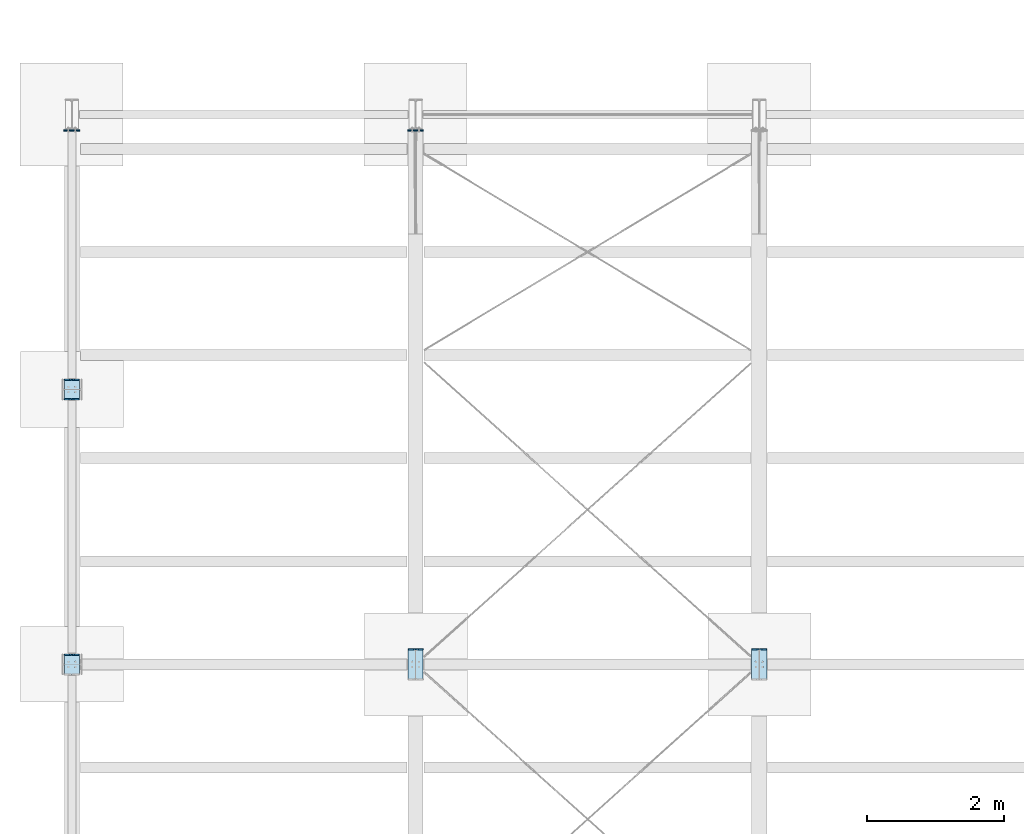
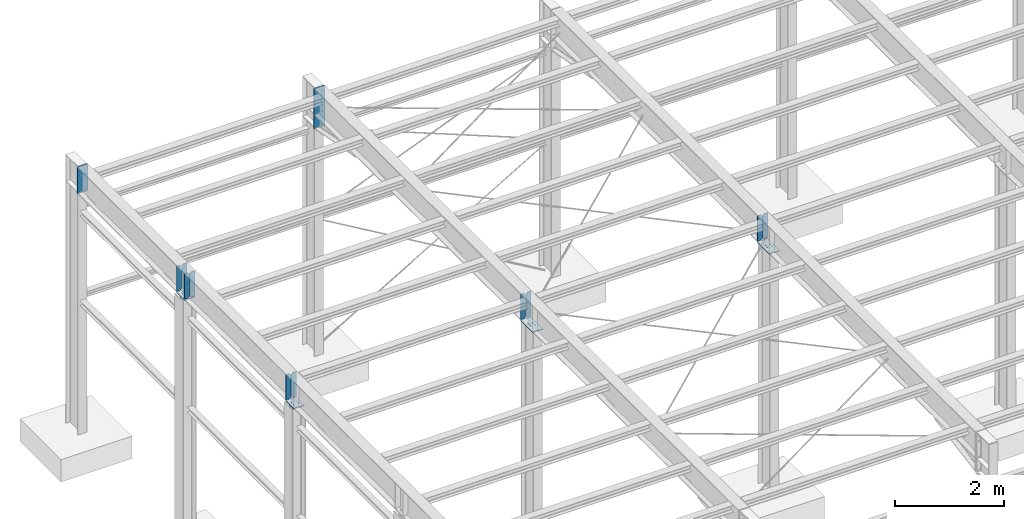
# Not in any storey, part 8 of 50: 16 plates, 50 openings.
"""IFC4 model written with IfcOpenShell, lengths in metres."""

from ifc_helpers import new_model, entity, si_unit, converted_unit, derived_unit, direction, frame, frame_2d, origin, origin_with_axes, origin_2d_with_axis, place, context, project, spatial, polyline, circle, outline, extrude, material, layer, layer_set, element, save


model = new_model("IFC4")

# Units and contexts
model_context = context("Model", 3, precision=1e-05, world=origin(), true_north=direction((6.123233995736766e-17, 1.0)))
ifc_project = project(units=[si_unit("LENGTHUNIT", "METRE"), si_unit("AREAUNIT", "SQUARE_METRE"), converted_unit("PLANEANGLEUNIT", "DEGREE", entity("IfcPlaneAngleMeasure", 0.017453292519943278), si_unit("PLANEANGLEUNIT", "RADIAN"), dimensions=[0, 0, 0, 0, 0, 0, 0]), si_unit("VOLUMEUNIT", "CUBIC_METRE"), derived_unit("THERMALTRANSMITTANCEUNIT", [(si_unit("MASSUNIT", "GRAM", prefix="KILO"), 1), (si_unit("THERMODYNAMICTEMPERATUREUNIT", "KELVIN"), -1), (si_unit("TIMEUNIT", "SECOND"), -3)])], contexts=[model_context])

# Site
site_placement = place(None, origin())
site = spatial("IfcSite", under=ifc_project, at=site_placement, Name="Default", CompositionType="ELEMENT")

# Plate, openings
ifc_material = material(Name="Dachdeckung - Blechdach")
ifc_layer_1 = layer(ifc_material, 15.0)
ifc_layer_set_1 = layer_set([ifc_layer_1], Name="Dachdeckung - Blechdach")
plate_1_placement = place(site_placement, frame((8.080144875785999, 9.70476753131, 5.385), z_axis=(0.0, 0.0, 1.0), x_axis=(1.0, 0.0, 0.0)))
plate_1 = element("IfcPlate", 1, at=plate_1_placement, inside=site, material=ifc_layer_set_1, Name="Endplate", ObjectType="Endplate", context=model_context, shape_type="SweptSolid", body=[
    extrude(outline(polyline([(0.0, 0.0), (0.22, 0.0), (0.22, 0.45), (0.0, 0.45), (0.0, 0.0)])), origin_with_axes(), (0.0, 0.0, 1.0), 0.015),
])
opening_1_placement = place(plate_1_placement, frame((0.11, 0.225, -0.0005), z_axis=(0.0, 0.0, 1.0), x_axis=(0.0, 1.0, 0.0)))
element("IfcOpeningElement", 2, at=opening_1_placement, cuts=plate_1, ObjectType="Opening", context=model_context, shape_type="SweptSolid", body=[
    extrude(circle(Radius=0.009000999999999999, at=frame_2d((0.0375, 0.05), x_axis=(1.0, 0.0))), origin(), (0.0, 0.0, 1.0), 0.016),
])
opening_2_placement = place(plate_1_placement, frame((0.11, 0.225, -0.0005), z_axis=(0.0, 0.0, 1.0), x_axis=(0.0, 1.0, 0.0)))
element("IfcOpeningElement", 3, at=opening_2_placement, cuts=plate_1, ObjectType="Opening", context=model_context, shape_type="SweptSolid", body=[
    extrude(circle(Radius=0.009000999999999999, at=frame_2d((-0.0375, 0.05), x_axis=(1.0, 0.0))), origin(), (0.0, 0.0, 1.0), 0.016),
])
opening_3_placement = place(plate_1_placement, frame((0.11, 0.225, -0.0005), z_axis=(0.0, 0.0, 1.0), x_axis=(0.0, 1.0, 0.0)))
element("IfcOpeningElement", 4, at=opening_3_placement, cuts=plate_1, ObjectType="Opening", context=model_context, shape_type="SweptSolid", body=[
    extrude(circle(Radius=0.009000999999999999, at=frame_2d((0.0375, -0.05), x_axis=(1.0, 0.0))), origin(), (0.0, 0.0, 1.0), 0.016),
])
opening_4_placement = place(plate_1_placement, frame((0.11, 0.225, -0.0005), z_axis=(0.0, 0.0, 1.0), x_axis=(0.0, 1.0, 0.0)))
element("IfcOpeningElement", 5, at=opening_4_placement, cuts=plate_1, ObjectType="Opening", context=model_context, shape_type="SweptSolid", body=[
    extrude(circle(Radius=0.009000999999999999, at=frame_2d((-0.0375, -0.05), x_axis=(1.0, 0.0))), origin(), (0.0, 0.0, 1.0), 0.016),
])

ifc_layer_2 = layer(ifc_material, 14.0)
ifc_layer_set_2 = layer_set([ifc_layer_2], Name="Dachdeckung - Blechdach")
plate_2_placement = place(site_placement, frame((8.080144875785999, 10.15476753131, 5.419), z_axis=(0.0, -1.0, 0.0), x_axis=(1.0, 0.0, 0.0)))
plate_2 = element("IfcPlate", 6, at=plate_2_placement, inside=site, material=ifc_layer_set_2, Name="Stiffener#1", ObjectType="Stiffener#1", context=model_context, shape_type="SweptSolid", body=[
    extrude(outline(polyline([(0.0, 0.0), (0.104, 0.0), (0.104, 0.562), (0.0, 0.562), (0.0, 0.0)])), origin_with_axes(), (0.0, 0.0, 1.0), 0.014),
])
opening_5_placement = place(plate_2_placement, frame((0.0, 0.0, -1e-05), z_axis=(0.0, 0.0, 1.0), x_axis=(1.0, 0.0, 0.0)))
element("IfcOpeningElement", 7, at=opening_5_placement, cuts=plate_2, ObjectType="Opening", context=model_context, shape_type="SweptSolid", body=[
    extrude(outline(polyline([(0.104, 0.562), (0.074, 0.562), (0.104, 0.532), (0.104, 0.562)])), origin(), (0.0, 0.0, 1.0), 0.01402),
])
opening_6_placement = place(plate_2_placement, frame((0.0, 0.0, -1e-05), z_axis=(0.0, 0.0, 1.0), x_axis=(1.0, 0.0, 0.0)))
element("IfcOpeningElement", 8, at=opening_6_placement, cuts=plate_2, ObjectType="Opening", context=model_context, shape_type="SweptSolid", body=[
    extrude(outline(polyline([(0.104, 0.0), (0.104, 0.03), (0.074, 0.0), (0.104, 0.0)])), origin(), (0.0, 0.0, 1.0), 0.01402),
])

plate_3_placement = place(site_placement, frame((8.196144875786, 10.15476753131, 5.419), z_axis=(0.0, -1.0, 0.0), x_axis=(1.0, 0.0, 0.0)))
plate_3 = element("IfcPlate", 9, at=plate_3_placement, inside=site, material=ifc_layer_set_2, Name="Stiffener#2", ObjectType="Stiffener#2", context=model_context, shape_type="SweptSolid", body=[
    extrude(outline(polyline([(0.0, 0.0), (0.104, 0.0), (0.104, 0.562), (0.0, 0.562), (0.0, 0.0)])), origin_with_axes(), (0.0, 0.0, 1.0), 0.014),
])
opening_7_placement = place(plate_3_placement, frame((0.0, 0.0, -1e-05), z_axis=(0.0, 0.0, 1.0), x_axis=(1.0, 0.0, 0.0)))
element("IfcOpeningElement", 10, at=opening_7_placement, cuts=plate_3, ObjectType="Opening", context=model_context, shape_type="SweptSolid", body=[
    extrude(outline(polyline([(0.0, 0.562), (0.0, 0.532), (0.03, 0.562), (0.0, 0.562)])), origin(), (0.0, 0.0, 1.0), 0.01402),
])
opening_8_placement = place(plate_3_placement, frame((0.0, 0.0, -1e-05), z_axis=(0.0, 0.0, 1.0), x_axis=(1.0, 0.0, 0.0)))
element("IfcOpeningElement", 11, at=opening_8_placement, cuts=plate_3, ObjectType="Opening", context=model_context, shape_type="SweptSolid", body=[
    extrude(outline(polyline([(0.0, 0.0), (0.03, 0.0), (0.0, 0.03), (0.0, 0.0)])), origin(), (0.0, 0.0, 1.0), 0.01402),
])

plate_4_placement = place(site_placement, frame((13.080144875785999, 9.70476753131, 5.385), z_axis=(0.0, 0.0, 1.0), x_axis=(1.0, 0.0, 0.0)))
plate_4 = element("IfcPlate", 12, at=plate_4_placement, inside=site, material=ifc_layer_set_1, Name="Endplate", ObjectType="Endplate", context=model_context, shape_type="SweptSolid", body=[
    extrude(outline(polyline([(0.0, 0.0), (0.22, 0.0), (0.22, 0.45), (0.0, 0.45), (0.0, 0.0)])), origin_with_axes(), (0.0, 0.0, 1.0), 0.015),
])
opening_9_placement = place(plate_4_placement, frame((0.11, 0.225, -0.0005), z_axis=(0.0, 0.0, 1.0), x_axis=(0.0, 1.0, 0.0)))
element("IfcOpeningElement", 13, at=opening_9_placement, cuts=plate_4, ObjectType="Opening", context=model_context, shape_type="SweptSolid", body=[
    extrude(circle(Radius=0.009000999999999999, at=frame_2d((0.0375, 0.05), x_axis=(1.0, 0.0))), origin(), (0.0, 0.0, 1.0), 0.016),
])
opening_10_placement = place(plate_4_placement, frame((0.11, 0.225, -0.0005), z_axis=(0.0, 0.0, 1.0), x_axis=(0.0, 1.0, 0.0)))
element("IfcOpeningElement", 14, at=opening_10_placement, cuts=plate_4, ObjectType="Opening", context=model_context, shape_type="SweptSolid", body=[
    extrude(circle(Radius=0.009000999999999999, at=frame_2d((-0.0375, 0.05), x_axis=(1.0, 0.0))), origin(), (0.0, 0.0, 1.0), 0.016),
])
opening_11_placement = place(plate_4_placement, frame((0.11, 0.225, -0.0005), z_axis=(0.0, 0.0, 1.0), x_axis=(0.0, 1.0, 0.0)))
element("IfcOpeningElement", 15, at=opening_11_placement, cuts=plate_4, ObjectType="Opening", context=model_context, shape_type="SweptSolid", body=[
    extrude(circle(Radius=0.009000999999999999, at=frame_2d((0.0375, -0.05), x_axis=(1.0, 0.0))), origin(), (0.0, 0.0, 1.0), 0.016),
])
opening_12_placement = place(plate_4_placement, frame((0.11, 0.225, -0.0005), z_axis=(0.0, 0.0, 1.0), x_axis=(0.0, 1.0, 0.0)))
element("IfcOpeningElement", 16, at=opening_12_placement, cuts=plate_4, ObjectType="Opening", context=model_context, shape_type="SweptSolid", body=[
    extrude(circle(Radius=0.009000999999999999, at=frame_2d((-0.0375, -0.05), x_axis=(1.0, 0.0))), origin(), (0.0, 0.0, 1.0), 0.016),
])

plate_5_placement = place(site_placement, frame((13.080144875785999, 10.15476753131, 5.419), z_axis=(0.0, -1.0, 0.0), x_axis=(1.0, 0.0, 0.0)))
plate_5 = element("IfcPlate", 17, at=plate_5_placement, inside=site, material=ifc_layer_set_2, Name="Stiffener#1", ObjectType="Stiffener#1", context=model_context, shape_type="SweptSolid", body=[
    extrude(outline(polyline([(0.0, 0.0), (0.104, 0.0), (0.104, 0.562), (0.0, 0.562), (0.0, 0.0)])), origin_with_axes(), (0.0, 0.0, 1.0), 0.014),
])
opening_13_placement = place(plate_5_placement, frame((0.0, 0.0, -1e-05), z_axis=(0.0, 0.0, 1.0), x_axis=(1.0, 0.0, 0.0)))
element("IfcOpeningElement", 18, at=opening_13_placement, cuts=plate_5, ObjectType="Opening", context=model_context, shape_type="SweptSolid", body=[
    extrude(outline(polyline([(0.104, 0.562), (0.074, 0.562), (0.104, 0.532), (0.104, 0.562)])), origin(), (0.0, 0.0, 1.0), 0.01402),
])
opening_14_placement = place(plate_5_placement, frame((0.0, 0.0, -1e-05), z_axis=(0.0, 0.0, 1.0), x_axis=(1.0, 0.0, 0.0)))
element("IfcOpeningElement", 19, at=opening_14_placement, cuts=plate_5, ObjectType="Opening", context=model_context, shape_type="SweptSolid", body=[
    extrude(outline(polyline([(0.104, 0.0), (0.104, 0.03), (0.074, 0.0), (0.104, 0.0)])), origin(), (0.0, 0.0, 1.0), 0.01402),
])

plate_6_placement = place(site_placement, frame((13.196144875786, 10.15476753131, 5.419), z_axis=(0.0, -1.0, 0.0), x_axis=(1.0, 0.0, 0.0)))
plate_6 = element("IfcPlate", 20, at=plate_6_placement, inside=site, material=ifc_layer_set_2, Name="Stiffener#2", ObjectType="Stiffener#2", context=model_context, shape_type="SweptSolid", body=[
    extrude(outline(polyline([(0.0, 0.0), (0.104, 0.0), (0.104, 0.562), (0.0, 0.562), (0.0, 0.0)])), origin_with_axes(), (0.0, 0.0, 1.0), 0.014),
])
opening_15_placement = place(plate_6_placement, frame((0.0, 0.0, -1e-05), z_axis=(0.0, 0.0, 1.0), x_axis=(1.0, 0.0, 0.0)))
element("IfcOpeningElement", 21, at=opening_15_placement, cuts=plate_6, ObjectType="Opening", context=model_context, shape_type="SweptSolid", body=[
    extrude(outline(polyline([(0.0, 0.562), (0.0, 0.532), (0.03, 0.562), (0.0, 0.562)])), origin(), (0.0, 0.0, 1.0), 0.01402),
])
opening_16_placement = place(plate_6_placement, frame((0.0, 0.0, -1e-05), z_axis=(0.0, 0.0, 1.0), x_axis=(1.0, 0.0, 0.0)))
element("IfcOpeningElement", 22, at=opening_16_placement, cuts=plate_6, ObjectType="Opening", context=model_context, shape_type="SweptSolid", body=[
    extrude(outline(polyline([(0.0, 0.0), (0.03, 0.0), (0.0, 0.03), (0.0, 0.0)])), origin(), (0.0, 0.0, 1.0), 0.01402),
])

plate_7_placement = place(site_placement, frame((3.3001448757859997, 14.07976753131, 5.385), z_axis=(0.0, 0.0, 1.0), x_axis=(-1.0, 0.0, 0.0)))
plate_7 = element("IfcPlate", 23, at=plate_7_placement, inside=site, material=ifc_layer_set_1, Name="Endplate", ObjectType="Endplate", context=model_context, shape_type="SweptSolid", body=[
    extrude(outline(polyline([(0.0, 0.0), (0.22, 0.0), (0.22, 0.3), (0.0, 0.3), (0.0, 0.0)])), origin_with_axes(), (0.0, 0.0, 1.0), 0.015),
])
opening_17_placement = place(plate_7_placement, frame((0.11, 0.15, -0.0005), z_axis=(0.0, 0.0, 1.0), x_axis=(0.0, -1.0, 0.0)))
element("IfcOpeningElement", 24, at=opening_17_placement, cuts=plate_7, ObjectType="Opening", context=model_context, shape_type="SweptSolid", body=[
    extrude(circle(Radius=0.009000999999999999, at=frame_2d((0.0375, 0.05), x_axis=(1.0, 0.0))), origin(), (0.0, 0.0, 1.0), 0.016),
])
opening_18_placement = place(plate_7_placement, frame((0.11, 0.15, -0.0005), z_axis=(0.0, 0.0, 1.0), x_axis=(0.0, -1.0, 0.0)))
element("IfcOpeningElement", 25, at=opening_18_placement, cuts=plate_7, ObjectType="Opening", context=model_context, shape_type="SweptSolid", body=[
    extrude(circle(Radius=0.009000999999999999, at=frame_2d((-0.0375, 0.05), x_axis=(1.0, 0.0))), origin(), (0.0, 0.0, 1.0), 0.016),
])
opening_19_placement = place(plate_7_placement, frame((0.11, 0.15, -0.0005), z_axis=(0.0, 0.0, 1.0), x_axis=(0.0, -1.0, 0.0)))
element("IfcOpeningElement", 26, at=opening_19_placement, cuts=plate_7, ObjectType="Opening", context=model_context, shape_type="SweptSolid", body=[
    extrude(circle(Radius=0.009000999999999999, at=frame_2d((0.0375, -0.05), x_axis=(1.0, 0.0))), origin(), (0.0, 0.0, 1.0), 0.016),
])
opening_20_placement = place(plate_7_placement, frame((0.11, 0.15, -0.0005), z_axis=(0.0, 0.0, 1.0), x_axis=(0.0, -1.0, 0.0)))
element("IfcOpeningElement", 27, at=opening_20_placement, cuts=plate_7, ObjectType="Opening", context=model_context, shape_type="SweptSolid", body=[
    extrude(circle(Radius=0.009000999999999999, at=frame_2d((-0.0375, -0.05), x_axis=(1.0, 0.0))), origin(), (0.0, 0.0, 1.0), 0.016),
])

plate_8_placement = place(site_placement, frame((3.080144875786, 14.07976753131, 5.419), z_axis=(0.0, -1.0, 0.0), x_axis=(1.0, 0.0, 0.0)))
plate_8 = element("IfcPlate", 28, at=plate_8_placement, inside=site, material=ifc_layer_set_2, Name="Stiffener#1", ObjectType="Stiffener#1", context=model_context, shape_type="SweptSolid", body=[
    extrude(outline(polyline([(0.0, 0.0), (0.104, 0.0), (0.104, 0.562), (0.0, 0.562), (0.0, 0.0)])), origin_with_axes(), (0.0, 0.0, 1.0), 0.014),
])
opening_21_placement = place(plate_8_placement, frame((0.0, 0.0, -1e-05), z_axis=(0.0, 0.0, 1.0), x_axis=(1.0, 0.0, 0.0)))
element("IfcOpeningElement", 29, at=opening_21_placement, cuts=plate_8, ObjectType="Opening", context=model_context, shape_type="SweptSolid", body=[
    extrude(outline(polyline([(0.104, 0.562), (0.074, 0.562), (0.104, 0.532), (0.104, 0.562)])), origin(), (0.0, 0.0, 1.0), 0.01402),
])
opening_22_placement = place(plate_8_placement, frame((0.0, 0.0, -1e-05), z_axis=(0.0, 0.0, 1.0), x_axis=(1.0, 0.0, 0.0)))
element("IfcOpeningElement", 30, at=opening_22_placement, cuts=plate_8, ObjectType="Opening", context=model_context, shape_type="SweptSolid", body=[
    extrude(outline(polyline([(0.104, 0.0), (0.104, 0.03), (0.074, 0.0), (0.104, 0.0)])), origin(), (0.0, 0.0, 1.0), 0.01402),
])

plate_9_placement = place(site_placement, frame((3.196144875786, 14.07976753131, 5.419), z_axis=(0.0, -1.0, 0.0), x_axis=(1.0, 0.0, 0.0)))
plate_9 = element("IfcPlate", 31, at=plate_9_placement, inside=site, material=ifc_layer_set_2, Name="Stiffener#2", ObjectType="Stiffener#2", context=model_context, shape_type="SweptSolid", body=[
    extrude(outline(polyline([(0.0, 0.0), (0.104, 0.0), (0.104, 0.562), (0.0, 0.562), (0.0, 0.0)])), origin_with_axes(), (0.0, 0.0, 1.0), 0.014),
])
opening_23_placement = place(plate_9_placement, frame((0.0, 0.0, -1e-05), z_axis=(0.0, 0.0, 1.0), x_axis=(1.0, 0.0, 0.0)))
element("IfcOpeningElement", 32, at=opening_23_placement, cuts=plate_9, ObjectType="Opening", context=model_context, shape_type="SweptSolid", body=[
    extrude(outline(polyline([(0.0, 0.562), (0.0, 0.532), (0.03, 0.562), (0.0, 0.562)])), origin(), (0.0, 0.0, 1.0), 0.01402),
])
opening_24_placement = place(plate_9_placement, frame((0.0, 0.0, -1e-05), z_axis=(0.0, 0.0, 1.0), x_axis=(1.0, 0.0, 0.0)))
element("IfcOpeningElement", 33, at=opening_24_placement, cuts=plate_9, ObjectType="Opening", context=model_context, shape_type="SweptSolid", body=[
    extrude(outline(polyline([(0.0, 0.0), (0.03, 0.0), (0.0, 0.03), (0.0, 0.0)])), origin(), (0.0, 0.0, 1.0), 0.01402),
])

plate_10_placement = place(site_placement, frame((3.184144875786, 13.77976753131, 5.419), z_axis=(0.0, 1.0, 0.0), x_axis=(-1.0, 0.0, 0.0)))
plate_10 = element("IfcPlate", 34, at=plate_10_placement, inside=site, material=ifc_layer_set_2, Name="Stiffener#3", ObjectType="Stiffener#3", context=model_context, shape_type="SweptSolid", body=[
    extrude(outline(polyline([(0.0, 0.0), (0.104, 0.0), (0.104, 0.562), (0.0, 0.562), (0.0, 0.0)])), origin_with_axes(), (0.0, 0.0, 1.0), 0.014),
])
opening_25_placement = place(plate_10_placement, frame((0.0, 0.0, -1e-05), z_axis=(0.0, 0.0, 1.0), x_axis=(1.0, 0.0, 0.0)))
element("IfcOpeningElement", 35, at=opening_25_placement, cuts=plate_10, ObjectType="Opening", context=model_context, shape_type="SweptSolid", body=[
    extrude(outline(polyline([(0.0, 0.562), (0.0, 0.532), (0.03, 0.562), (0.0, 0.562)])), origin(), (0.0, 0.0, 1.0), 0.01402),
])
opening_26_placement = place(plate_10_placement, frame((0.0, 0.0, -1e-05), z_axis=(0.0, 0.0, 1.0), x_axis=(1.0, 0.0, 0.0)))
element("IfcOpeningElement", 36, at=opening_26_placement, cuts=plate_10, ObjectType="Opening", context=model_context, shape_type="SweptSolid", body=[
    extrude(outline(polyline([(0.0, 0.0), (0.03, 0.0), (0.0, 0.03), (0.0, 0.0)])), origin(), (0.0, 0.0, 1.0), 0.01402),
])

plate_11_placement = place(site_placement, frame((3.3001448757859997, 13.77976753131, 5.419), z_axis=(0.0, 1.0, 0.0), x_axis=(-1.0, 0.0, 0.0)))
plate_11 = element("IfcPlate", 37, at=plate_11_placement, inside=site, material=ifc_layer_set_2, Name="Stiffener#4", ObjectType="Stiffener#4", context=model_context, shape_type="SweptSolid", body=[
    extrude(outline(polyline([(0.0, 0.0), (0.104, 0.0), (0.104, 0.562), (0.0, 0.562), (0.0, 0.0)])), origin_with_axes(), (0.0, 0.0, 1.0), 0.014),
])
opening_27_placement = place(plate_11_placement, frame((0.0, 0.0, -1e-05), z_axis=(0.0, 0.0, 1.0), x_axis=(1.0, 0.0, 0.0)))
element("IfcOpeningElement", 38, at=opening_27_placement, cuts=plate_11, ObjectType="Opening", context=model_context, shape_type="SweptSolid", body=[
    extrude(outline(polyline([(0.104, 0.562), (0.074, 0.562), (0.104, 0.532), (0.104, 0.562)])), origin(), (0.0, 0.0, 1.0), 0.01402),
])
opening_28_placement = place(plate_11_placement, frame((0.0, 0.0, -1e-05), z_axis=(0.0, 0.0, 1.0), x_axis=(1.0, 0.0, 0.0)))
element("IfcOpeningElement", 39, at=opening_28_placement, cuts=plate_11, ObjectType="Opening", context=model_context, shape_type="SweptSolid", body=[
    extrude(outline(polyline([(0.104, 0.0), (0.104, 0.03), (0.074, 0.0), (0.104, 0.0)])), origin(), (0.0, 0.0, 1.0), 0.01402),
])

plate_12_placement = place(site_placement, frame((3.3001448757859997, 10.07976753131, 5.385), z_axis=(0.0, 0.0, 1.0), x_axis=(-1.0, 0.0, 0.0)))
plate_12 = element("IfcPlate", 40, at=plate_12_placement, inside=site, material=ifc_layer_set_1, Name="Endplate", ObjectType="Endplate", context=model_context, shape_type="SweptSolid", body=[
    extrude(outline(polyline([(0.0, 0.0), (0.22, 0.0), (0.22, 0.3), (0.0, 0.3), (0.0, 0.0)])), origin_with_axes(), (0.0, 0.0, 1.0), 0.015),
])
opening_29_placement = place(plate_12_placement, frame((0.11, 0.15, -0.0005), z_axis=(0.0, 0.0, 1.0), x_axis=(0.0, -1.0, 0.0)))
element("IfcOpeningElement", 41, at=opening_29_placement, cuts=plate_12, ObjectType="Opening", context=model_context, shape_type="SweptSolid", body=[
    extrude(circle(Radius=0.009000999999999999, at=frame_2d((0.0375, 0.05), x_axis=(1.0, 0.0))), origin(), (0.0, 0.0, 1.0), 0.016),
])
opening_30_placement = place(plate_12_placement, frame((0.11, 0.15, -0.0005), z_axis=(0.0, 0.0, 1.0), x_axis=(0.0, -1.0, 0.0)))
element("IfcOpeningElement", 42, at=opening_30_placement, cuts=plate_12, ObjectType="Opening", context=model_context, shape_type="SweptSolid", body=[
    extrude(circle(Radius=0.009000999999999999, at=frame_2d((-0.0375, 0.05), x_axis=(1.0, 0.0))), origin(), (0.0, 0.0, 1.0), 0.016),
])
opening_31_placement = place(plate_12_placement, frame((0.11, 0.15, -0.0005), z_axis=(0.0, 0.0, 1.0), x_axis=(0.0, -1.0, 0.0)))
element("IfcOpeningElement", 43, at=opening_31_placement, cuts=plate_12, ObjectType="Opening", context=model_context, shape_type="SweptSolid", body=[
    extrude(circle(Radius=0.009000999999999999, at=frame_2d((0.0375, -0.05), x_axis=(1.0, 0.0))), origin(), (0.0, 0.0, 1.0), 0.016),
])
opening_32_placement = place(plate_12_placement, frame((0.11, 0.15, -0.0005), z_axis=(0.0, 0.0, 1.0), x_axis=(0.0, -1.0, 0.0)))
element("IfcOpeningElement", 44, at=opening_32_placement, cuts=plate_12, ObjectType="Opening", context=model_context, shape_type="SweptSolid", body=[
    extrude(circle(Radius=0.009000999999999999, at=frame_2d((-0.0375, -0.05), x_axis=(1.0, 0.0))), origin(), (0.0, 0.0, 1.0), 0.016),
])

plate_13_placement = place(site_placement, frame((3.080144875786, 10.07976753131, 5.419), z_axis=(0.0, -1.0, 0.0), x_axis=(1.0, 0.0, 0.0)))
plate_13 = element("IfcPlate", 45, at=plate_13_placement, inside=site, material=ifc_layer_set_2, Name="Stiffener#1", ObjectType="Stiffener#1", context=model_context, shape_type="SweptSolid", body=[
    extrude(outline(polyline([(0.0, 0.0), (0.104, 0.0), (0.104, 0.562), (0.0, 0.562), (0.0, 0.0)])), origin_with_axes(), (0.0, 0.0, 1.0), 0.014),
])
opening_33_placement = place(plate_13_placement, frame((0.0, 0.0, -1e-05), z_axis=(0.0, 0.0, 1.0), x_axis=(1.0, 0.0, 0.0)))
element("IfcOpeningElement", 46, at=opening_33_placement, cuts=plate_13, ObjectType="Opening", context=model_context, shape_type="SweptSolid", body=[
    extrude(outline(polyline([(0.104, 0.562), (0.074, 0.562), (0.104, 0.532), (0.104, 0.562)])), origin(), (0.0, 0.0, 1.0), 0.01402),
])
opening_34_placement = place(plate_13_placement, frame((0.0, 0.0, -1e-05), z_axis=(0.0, 0.0, 1.0), x_axis=(1.0, 0.0, 0.0)))
element("IfcOpeningElement", 47, at=opening_34_placement, cuts=plate_13, ObjectType="Opening", context=model_context, shape_type="SweptSolid", body=[
    extrude(outline(polyline([(0.104, 0.0), (0.104, 0.03), (0.074, 0.0), (0.104, 0.0)])), origin(), (0.0, 0.0, 1.0), 0.01402),
])

plate_14_placement = place(site_placement, frame((3.196144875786, 10.07976753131, 5.419), z_axis=(0.0, -1.0, 0.0), x_axis=(1.0, 0.0, 0.0)))
plate_14 = element("IfcPlate", 48, at=plate_14_placement, inside=site, material=ifc_layer_set_2, Name="Stiffener#2", ObjectType="Stiffener#2", context=model_context, shape_type="SweptSolid", body=[
    extrude(outline(polyline([(0.0, 0.0), (0.104, 0.0), (0.104, 0.562), (0.0, 0.562), (0.0, 0.0)])), origin_with_axes(), (0.0, 0.0, 1.0), 0.014),
])
opening_35_placement = place(plate_14_placement, frame((0.0, 0.0, -1e-05), z_axis=(0.0, 0.0, 1.0), x_axis=(1.0, 0.0, 0.0)))
element("IfcOpeningElement", 49, at=opening_35_placement, cuts=plate_14, ObjectType="Opening", context=model_context, shape_type="SweptSolid", body=[
    extrude(outline(polyline([(0.0, 0.562), (0.0, 0.532), (0.03, 0.562), (0.0, 0.562)])), origin(), (0.0, 0.0, 1.0), 0.01402),
])
opening_36_placement = place(plate_14_placement, frame((0.0, 0.0, -1e-05), z_axis=(0.0, 0.0, 1.0), x_axis=(1.0, 0.0, 0.0)))
element("IfcOpeningElement", 50, at=opening_36_placement, cuts=plate_14, ObjectType="Opening", context=model_context, shape_type="SweptSolid", body=[
    extrude(outline(polyline([(0.0, 0.0), (0.03, 0.0), (0.0, 0.03), (0.0, 0.0)])), origin(), (0.0, 0.0, 1.0), 0.01402),
])

plate_15_placement = place(site_placement, frame((8.075144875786, 17.68976753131, 5.995), z_axis=(0.0, 1.0, 0.0), x_axis=(1.0, 0.0, 0.0)))
plate_15 = element("IfcPlate", 51, at=plate_15_placement, inside=site, material=ifc_layer_set_1, Name="Endplate", ObjectType="Endplate", context=model_context, shape_type="SweptSolid", body=[
    extrude(outline(polyline([(0.0, 0.0), (0.23, 0.0), (0.23, 0.9), (0.0, 0.9), (0.0, 0.0)])), origin_with_axes(), (0.0, 0.0, 1.0), 0.015),
])
opening_37_placement = place(plate_15_placement, frame((0.065, 0.2, 0.0155), z_axis=(0.0, 0.0, -1.0), x_axis=(1.0, 0.0, 0.0)))
element("IfcOpeningElement", 52, at=opening_37_placement, cuts=plate_15, ObjectType="Opening", context=model_context, shape_type="SweptSolid", body=[
    extrude(circle(Radius=0.009000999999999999, at=origin_2d_with_axis()), origin(), (0.0, 0.0, 1.0), 0.016),
])
opening_38_placement = place(plate_15_placement, frame((0.165, 0.85, 0.0155), z_axis=(0.0, 0.0, -1.0), x_axis=(1.0, 0.0, 0.0)))
element("IfcOpeningElement", 53, at=opening_38_placement, cuts=plate_15, ObjectType="Opening", context=model_context, shape_type="SweptSolid", body=[
    extrude(circle(Radius=0.009000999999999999, at=origin_2d_with_axis()), origin(), (0.0, 0.0, 1.0), 0.016),
])
opening_39_placement = place(plate_15_placement, frame((0.065, 0.85, 0.0155), z_axis=(0.0, 0.0, -1.0), x_axis=(1.0, 0.0, 0.0)))
element("IfcOpeningElement", 54, at=opening_39_placement, cuts=plate_15, ObjectType="Opening", context=model_context, shape_type="SweptSolid", body=[
    extrude(circle(Radius=0.009000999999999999, at=origin_2d_with_axis()), origin(), (0.0, 0.0, 1.0), 0.016),
])
opening_40_placement = place(plate_15_placement, frame((0.165, 0.2, 0.0155), z_axis=(0.0, 0.0, -1.0), x_axis=(1.0, 0.0, 0.0)))
element("IfcOpeningElement", 55, at=opening_40_placement, cuts=plate_15, ObjectType="Opening", context=model_context, shape_type="SweptSolid", body=[
    extrude(circle(Radius=0.009000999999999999, at=origin_2d_with_axis()), origin(), (0.0, 0.0, 1.0), 0.016),
])
opening_41_placement = place(plate_15_placement, frame((0.065, 0.55, 0.0155), z_axis=(0.0, 0.0, -1.0), x_axis=(1.0, 0.0, 0.0)))
element("IfcOpeningElement", 56, at=opening_41_placement, cuts=plate_15, ObjectType="Opening", context=model_context, shape_type="SweptSolid", body=[
    extrude(circle(Radius=0.009000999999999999, at=origin_2d_with_axis()), origin(), (0.0, 0.0, 1.0), 0.016),
])
opening_42_placement = place(plate_15_placement, frame((0.165, 0.55, 0.0155), z_axis=(0.0, 0.0, -1.0), x_axis=(1.0, 0.0, 0.0)))
element("IfcOpeningElement", 57, at=opening_42_placement, cuts=plate_15, ObjectType="Opening", context=model_context, shape_type="SweptSolid", body=[
    extrude(circle(Radius=0.009000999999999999, at=origin_2d_with_axis()), origin(), (0.0, 0.0, 1.0), 0.016),
])
opening_43_placement = place(plate_15_placement, frame((0.065, 0.1, 0.0155), z_axis=(0.0, 0.0, -1.0), x_axis=(1.0, 0.0, 0.0)))
element("IfcOpeningElement", 58, at=opening_43_placement, cuts=plate_15, ObjectType="Opening", context=model_context, shape_type="SweptSolid", body=[
    extrude(circle(Radius=0.009000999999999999, at=origin_2d_with_axis()), origin(), (0.0, 0.0, 1.0), 0.016),
])
opening_44_placement = place(plate_15_placement, frame((0.165, 0.1, 0.0155), z_axis=(0.0, 0.0, -1.0), x_axis=(1.0, 0.0, 0.0)))
element("IfcOpeningElement", 59, at=opening_44_placement, cuts=plate_15, ObjectType="Opening", context=model_context, shape_type="SweptSolid", body=[
    extrude(circle(Radius=0.009000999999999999, at=origin_2d_with_axis()), origin(), (0.0, 0.0, 1.0), 0.016),
])

plate_16_placement = place(site_placement, frame((3.075144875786, 17.68976753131, 5.995), z_axis=(0.0, 1.0, 0.0), x_axis=(1.0, 0.0, 0.0)))
plate_16 = element("IfcPlate", 60, at=plate_16_placement, inside=site, material=ifc_layer_set_1, Name="Endplate", ObjectType="Endplate", context=model_context, shape_type="SweptSolid", body=[
    extrude(outline(polyline([(0.0, 0.0), (0.23, 0.0), (0.23, 0.6), (0.0, 0.6), (0.0, 0.0)])), origin_with_axes(), (0.0, 0.0, 1.0), 0.015),
])
opening_45_placement = place(plate_16_placement, frame((0.065, 0.55, 0.0155), z_axis=(0.0, 0.0, -1.0), x_axis=(1.0, 0.0, 0.0)))
element("IfcOpeningElement", 61, at=opening_45_placement, cuts=plate_16, ObjectType="Opening", context=model_context, shape_type="SweptSolid", body=[
    extrude(circle(Radius=0.009000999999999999, at=origin_2d_with_axis()), origin(), (0.0, 0.0, 1.0), 0.016),
])
opening_46_placement = place(plate_16_placement, frame((0.165, 0.55, 0.0155), z_axis=(0.0, 0.0, -1.0), x_axis=(1.0, 0.0, 0.0)))
element("IfcOpeningElement", 62, at=opening_46_placement, cuts=plate_16, ObjectType="Opening", context=model_context, shape_type="SweptSolid", body=[
    extrude(circle(Radius=0.009000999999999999, at=origin_2d_with_axis()), origin(), (0.0, 0.0, 1.0), 0.016),
])
opening_47_placement = place(plate_16_placement, frame((0.165, 0.1, 0.0155), z_axis=(0.0, 0.0, -1.0), x_axis=(1.0, 0.0, 0.0)))
element("IfcOpeningElement", 63, at=opening_47_placement, cuts=plate_16, ObjectType="Opening", context=model_context, shape_type="SweptSolid", body=[
    extrude(circle(Radius=0.009000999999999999, at=origin_2d_with_axis()), origin(), (0.0, 0.0, 1.0), 0.016),
])
opening_48_placement = place(plate_16_placement, frame((0.065, 0.2, 0.0155), z_axis=(0.0, 0.0, -1.0), x_axis=(1.0, 0.0, 0.0)))
element("IfcOpeningElement", 64, at=opening_48_placement, cuts=plate_16, ObjectType="Opening", context=model_context, shape_type="SweptSolid", body=[
    extrude(circle(Radius=0.009000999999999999, at=origin_2d_with_axis()), origin(), (0.0, 0.0, 1.0), 0.016),
])
opening_49_placement = place(plate_16_placement, frame((0.065, 0.1, 0.0155), z_axis=(0.0, 0.0, -1.0), x_axis=(1.0, 0.0, 0.0)))
element("IfcOpeningElement", 65, at=opening_49_placement, cuts=plate_16, ObjectType="Opening", context=model_context, shape_type="SweptSolid", body=[
    extrude(circle(Radius=0.009000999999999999, at=origin_2d_with_axis()), origin(), (0.0, 0.0, 1.0), 0.016),
])
opening_50_placement = place(plate_16_placement, frame((0.165, 0.2, 0.0155), z_axis=(0.0, 0.0, -1.0), x_axis=(1.0, 0.0, 0.0)))
element("IfcOpeningElement", 66, at=opening_50_placement, cuts=plate_16, ObjectType="Opening", context=model_context, shape_type="SweptSolid", body=[
    extrude(circle(Radius=0.009000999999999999, at=origin_2d_with_axis()), origin(), (0.0, 0.0, 1.0), 0.016),
])

save(model, "model.ifc")
